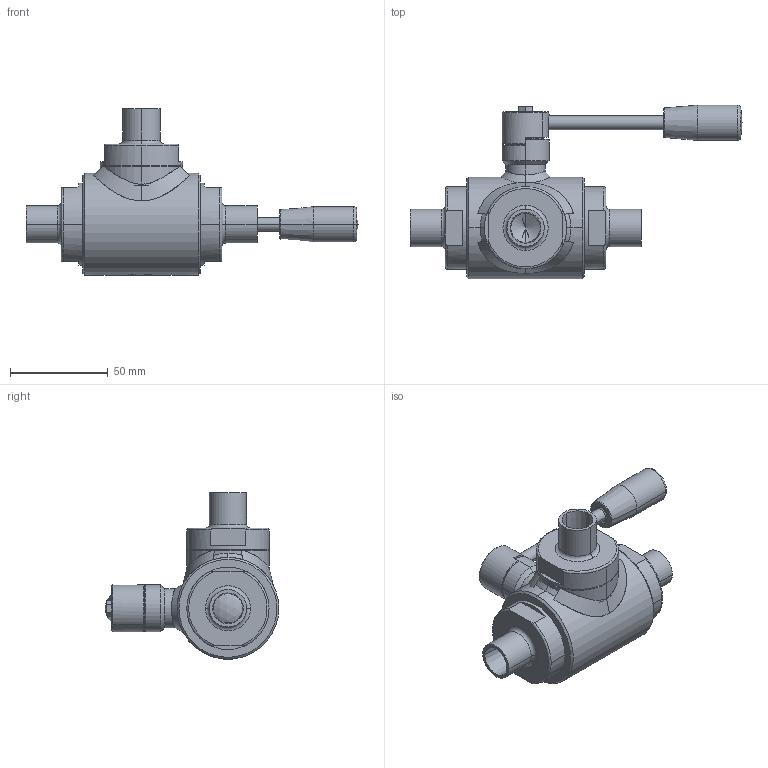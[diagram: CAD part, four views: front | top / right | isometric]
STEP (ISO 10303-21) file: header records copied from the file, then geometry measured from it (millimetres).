
FILE_DESCRIPTION((''),'2;1');
FILE_NAME('3101426B910','2018-12-06T17:17:54',('UFFICIO TECNICO'),('CDM Tecnoconsulting'),'CREO PARAMETRIC BY PTC INC, 2018050','CREO PARAMETRIC BY PTC INC, 2018050','');
FILE_SCHEMA(('CONFIG_CONTROL_DESIGN','SHAPE_APPEARANCE_LAYERS_GROUPS'));
Length unit declared in the file: millimetre
Products named in the file (1): 3101426B910
Bounding box: 169.5 x 88.7 x 85 mm (x, y, z)
Surface area: 44100 mm2 (no closed solid volume)
Topology: 0 solids, 55 shells, 269 faces, 1229 edges, 996 vertices
Faces by surface type: plane 101, cylinder 60, cone 53, torus 25, bspline 16, extrusion 11, sphere 3
Entity records: 19663 total; most frequent: CARTESIAN_POINT 6584, ORIENTED_EDGE 1690, DIRECTION 1576, PRESENTATION_STYLE_ASSIGNMENT 1279, STYLED_ITEM 1244, CURVE_STYLE 1224, EDGE_CURVE 1224, VERTEX_POINT 996
